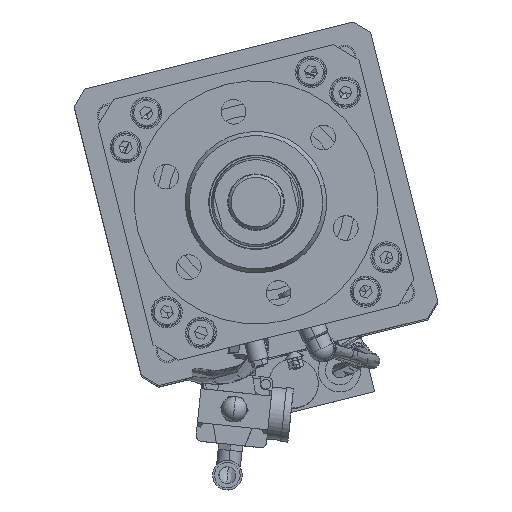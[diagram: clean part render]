
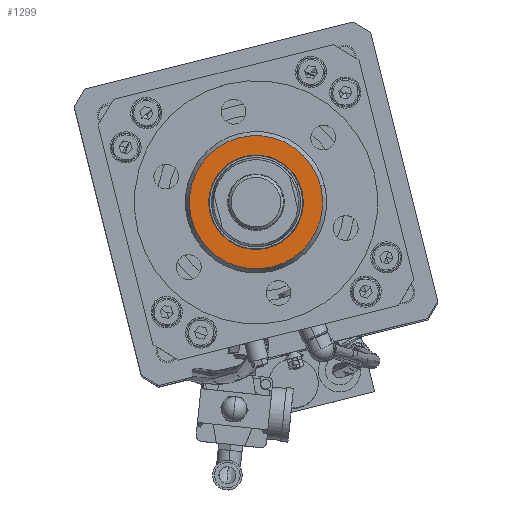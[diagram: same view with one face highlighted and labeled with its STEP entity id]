
A CAD part, top view. The second image highlights one B-rep face of the part: STEP entity #1299.
In plain terms, the highlighted planar face has unit normal (0, 0, 1).
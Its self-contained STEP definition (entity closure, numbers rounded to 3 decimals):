
#745 = EDGE_CURVE ( 'NONE', #26555, #23693, #15818, .T. ) ;
#1299 = ADVANCED_FACE ( 'NONE', ( #18235, #2055 ), #14151, .T. ) ;
#1572 = DIRECTION ( 'NONE',  ( 0., 0., 1. ) ) ;
#2055 = FACE_OUTER_BOUND ( 'NONE', #2357, .T. ) ;
#2246 = CARTESIAN_POINT ( 'NONE',  ( 264.238, 32.564, 190.44 ) ) ;
#2357 = EDGE_LOOP ( 'NONE', ( #9362, #2833 ) ) ;
#2833 = ORIENTED_EDGE ( 'NONE', *, *, #745, .T. ) ;
#3987 = DIRECTION ( 'NONE',  ( 0., 0., 1. ) ) ;
#4694 = CARTESIAN_POINT ( 'NONE',  ( 264.238, 32.564, 190.44 ) ) ;
#5242 = ORIENTED_EDGE ( 'NONE', *, *, #22997, .F. ) ;
#6736 = DIRECTION ( 'NONE',  ( 0., 0., 1. ) ) ;
#8927 = EDGE_CURVE ( 'NONE', #23693, #26555, #18724, .T. ) ;
#9271 = CARTESIAN_POINT ( 'NONE',  ( 231.827, 24.49, 190.44 ) ) ;
#9362 = ORIENTED_EDGE ( 'NONE', *, *, #8927, .T. ) ;
#10281 = DIRECTION ( 'NONE',  ( 0., 0., 1. ) ) ;
#10350 = DIRECTION ( 'NONE',  ( 0., 0., 1. ) ) ;
#12299 = DIRECTION ( 'NONE',  ( 0.97, 0.242, 0. ) ) ;
#12353 = AXIS2_PLACEMENT_3D ( 'NONE', #2246, #10281, #22933 ) ;
#12567 = DIRECTION ( 'NONE',  ( 0.97, 0.242, 0. ) ) ;
#13094 = CARTESIAN_POINT ( 'NONE',  ( 218.522, 21.176, 190.44 ) ) ;
#13358 = AXIS2_PLACEMENT_3D ( 'NONE', #18285, #1572, #12299 ) ;
#14138 = VERTEX_POINT ( 'NONE', #23511 ) ;
#14151 = PLANE ( 'NONE',  #24545 ) ;
#14500 = AXIS2_PLACEMENT_3D ( 'NONE', #4694, #6736, #19375 ) ;
#14636 = CIRCLE ( 'NONE', #13358, 33.402 ) ;
#15391 = ORIENTED_EDGE ( 'NONE', *, *, #15514, .F. ) ;
#15514 = EDGE_CURVE ( 'NONE', #24873, #14138, #14636, .T. ) ;
#15818 = CIRCLE ( 'NONE', #14500, 47.113 ) ;
#17002 = AXIS2_PLACEMENT_3D ( 'NONE', #25088, #3987, #12567 ) ;
#17580 = CIRCLE ( 'NONE', #12353, 33.402 ) ;
#18235 = FACE_BOUND ( 'NONE', #24329, .T. ) ;
#18285 = CARTESIAN_POINT ( 'NONE',  ( 264.238, 32.564, 190.44 ) ) ;
#18724 = CIRCLE ( 'NONE', #17002, 47.113 ) ;
#19375 = DIRECTION ( 'NONE',  ( 0.97, 0.242, 0. ) ) ;
#22456 = CARTESIAN_POINT ( 'NONE',  ( 264.238, 32.564, 190.44 ) ) ;
#22856 = DIRECTION ( 'NONE',  ( 0.97, 0.242, 0. ) ) ;
#22933 = DIRECTION ( 'NONE',  ( 0.97, 0.242, 0. ) ) ;
#22997 = EDGE_CURVE ( 'NONE', #14138, #24873, #17580, .T. ) ;
#23511 = CARTESIAN_POINT ( 'NONE',  ( 296.65, 40.638, 190.44 ) ) ;
#23693 = VERTEX_POINT ( 'NONE', #13094 ) ;
#24329 = EDGE_LOOP ( 'NONE', ( #5242, #15391 ) ) ;
#24545 = AXIS2_PLACEMENT_3D ( 'NONE', #22456, #10350, #22856 ) ;
#24873 = VERTEX_POINT ( 'NONE', #9271 ) ;
#25088 = CARTESIAN_POINT ( 'NONE',  ( 264.238, 32.564, 190.44 ) ) ;
#26524 = CARTESIAN_POINT ( 'NONE',  ( 309.954, 43.952, 190.44 ) ) ;
#26555 = VERTEX_POINT ( 'NONE', #26524 ) ;
